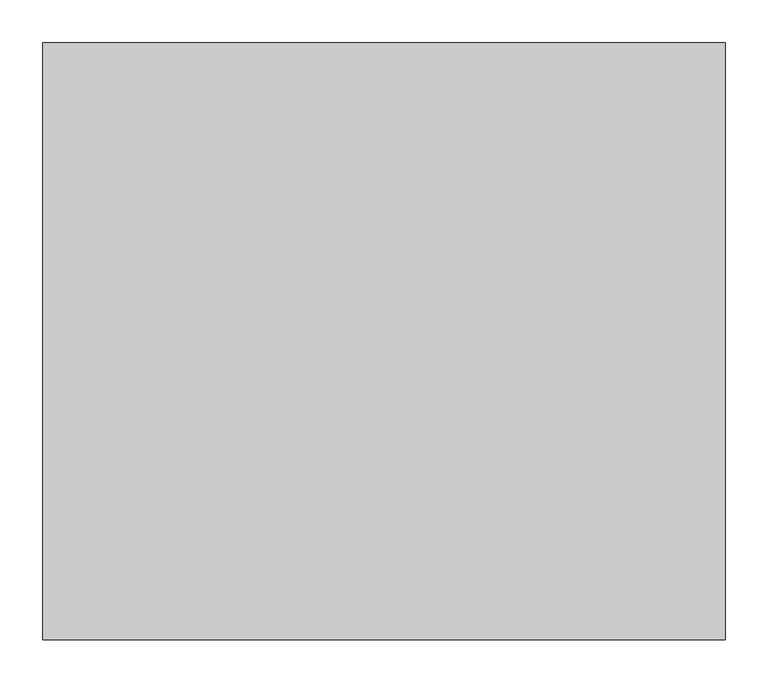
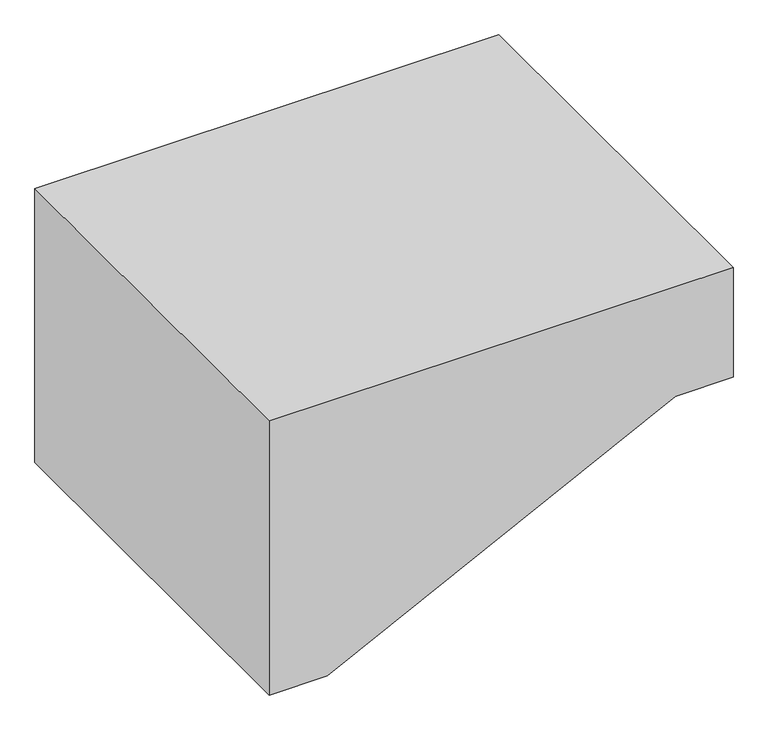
"""IFC4 building model written with IfcOpenShell, lengths in millimetres: duct fitting geometry, 2017_Reducción_Climaver_Reducción-Rectangular-a-una-cara-horizontal-en-U : Reducción en U a cara horizontal."""

from ifc_helpers import new_model, si_unit, frame, origin, place, context, project, spatial, polyline, outline, extrude, source, transform, mapped, element, save


def duct_fitting_a1c54996(model_context):
    return source(origin(), model_context, "Body", "SweptSolid", [
        extrude(outline(polyline([(250.0, -400.0), (-250.0, -400.0), (-250.0, -300.0), (50.0, 300.0), (50.0, 400.0), (250.0, 400.0), (250.0, -400.0)])), frame((0.0, -350.0, 0.0), z_axis=(0.0, 1.0, 0.0), x_axis=(0.0, 0.0, 1.0)), (0.0, 0.0, 1.0), 700.0),
    ])


if __name__ == "__main__":
    model = new_model("IFC4")
    model_context = context("Model", 3, world=origin())
    ifc_project = project(units=[si_unit("LENGTHUNIT", "METRE", prefix="MILLI")], contexts=[model_context])
    site = spatial("IfcSite", under=ifc_project)
    building = spatial("IfcBuilding", under=site)
    placement = place(None, origin())
    duct_fitting_shape = duct_fitting_a1c54996(model_context)
    element("IfcDuctFitting", 1, ObjectType="2017_Reducción_Climaver_Reducción-Rectangular-a-una-cara-horizontal-en-U : Reducción en U a cara horizontal", at=placement, inside=building, context=model_context, shape_type="MappedRepresentation", body=[
        mapped(duct_fitting_shape, transform((0.0, 0.0, 0.0), x_axis=(1.0, 0.0, 0.0), y_axis=(0.0, 1.0, 0.0), z_axis=(0.0, 0.0, 1.0))),
    ])
    save(model, "model.ifc")
